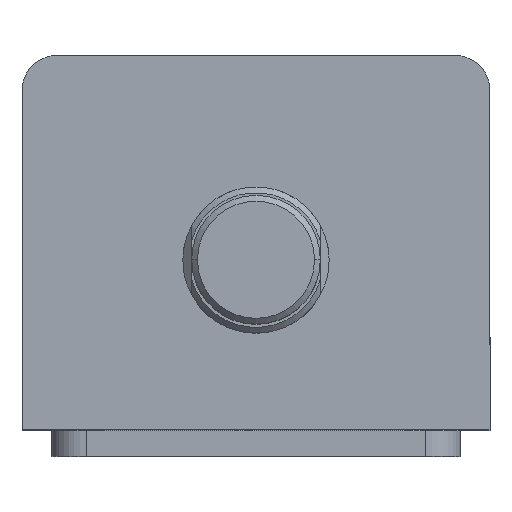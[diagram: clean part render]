
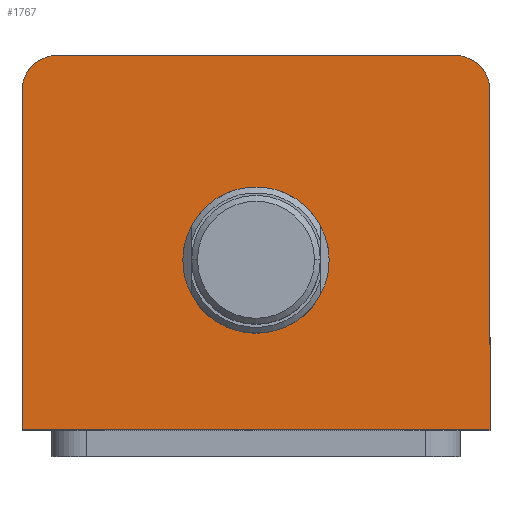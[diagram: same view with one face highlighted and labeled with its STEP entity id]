
A CAD part, top view. The second image highlights one B-rep face of the part: STEP entity #1767.
In plain terms, the highlighted planar face has unit normal (0, 0, 1).
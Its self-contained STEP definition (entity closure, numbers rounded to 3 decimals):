
#34 = CARTESIAN_POINT ( 'NONE',  ( 12.5, -3., 95. ) ) ;
#48 = CARTESIAN_POINT ( 'NONE',  ( -34., 32., 95. ) ) ;
#51 = CARTESIAN_POINT ( 'NONE',  ( 34., 32., 95. ) ) ;
#75 = CARTESIAN_POINT ( 'NONE',  ( -40., -32., 95. ) ) ;
#78 = CARTESIAN_POINT ( 'NONE',  ( 40., -32., 95. ) ) ;
#98 = CARTESIAN_POINT ( 'NONE',  ( -40., 26., 95. ) ) ;
#102 = CARTESIAN_POINT ( 'NONE',  ( 40., 26., 95. ) ) ;
#349 = DIRECTION ( 'NONE',  ( 0., 1., 0. ) ) ;
#358 = CARTESIAN_POINT ( 'NONE',  ( 40., 32., 95. ) ) ;
#441 = DIRECTION ( 'NONE',  ( 1., 0., 0. ) ) ;
#442 = DIRECTION ( 'NONE',  ( 0., 0., 1. ) ) ;
#443 = CARTESIAN_POINT ( 'NONE',  ( 0., -3., 95. ) ) ;
#456 = DIRECTION ( 'NONE',  ( -1., 0., 0. ) ) ;
#458 = CARTESIAN_POINT ( 'NONE',  ( -40., 32., 95. ) ) ;
#483 = DIRECTION ( 'NONE',  ( 0., -1., 0. ) ) ;
#485 = CARTESIAN_POINT ( 'NONE',  ( -40., 32., 95. ) ) ;
#495 = DIRECTION ( 'NONE',  ( 1., 0., 0. ) ) ;
#496 = DIRECTION ( 'NONE',  ( 0., 0., 1. ) ) ;
#497 = CARTESIAN_POINT ( 'NONE',  ( -34., 26., 95. ) ) ;
#537 = DIRECTION ( 'NONE',  ( 1., 0., 0. ) ) ;
#538 = DIRECTION ( 'NONE',  ( 0., 0., 1. ) ) ;
#539 = CARTESIAN_POINT ( 'NONE',  ( 34., 26., 95. ) ) ;
#592 = ORIENTED_EDGE ( 'NONE', *, *, #1402, .T. ) ;
#593 = ORIENTED_EDGE ( 'NONE', *, *, #1394, .T. ) ;
#595 = ORIENTED_EDGE ( 'NONE', *, *, #1357, .T. ) ;
#597 = ORIENTED_EDGE ( 'NONE', *, *, #1415, .T. ) ;
#598 = ORIENTED_EDGE ( 'NONE', *, *, #1411, .T. ) ;
#599 = ORIENTED_EDGE ( 'NONE', *, *, #1374, .T. ) ;
#600 = ORIENTED_EDGE ( 'NONE', *, *, #1328, .F. ) ;
#601 = ORIENTED_EDGE ( 'NONE', *, *, #1428, .F. ) ;
#1124 = EDGE_LOOP ( 'NONE', ( #601, #600 ) ) ;
#1135 = EDGE_LOOP ( 'NONE', ( #599, #598, #597, #595, #593, #592 ) ) ;
#1328 = EDGE_CURVE ( 'NONE', #2495, #2451, #2694, .T. ) ;
#1357 = EDGE_CURVE ( 'NONE', #2410, #2407, #2733, .T. ) ;
#1374 = EDGE_CURVE ( 'NONE', #2434, #2437, #2766, .T. ) ;
#1394 = EDGE_CURVE ( 'NONE', #2407, #2386, #2805, .T. ) ;
#1402 = EDGE_CURVE ( 'NONE', #2386, #2434, #2812, .T. ) ;
#1411 = EDGE_CURVE ( 'NONE', #2437, #2390, #2825, .T. ) ;
#1415 = EDGE_CURVE ( 'NONE', #2390, #2410, #2831, .T. ) ;
#1428 = EDGE_CURVE ( 'NONE', #2451, #2495, #2857, .T. ) ;
#1767 = ADVANCED_FACE ( 'NONE', ( #2015, #2023 ), #3312, .T. ) ;
#1853 = AXIS2_PLACEMENT_3D ( 'NONE', #3665, #3663, #3662 ) ;
#2015 = FACE_BOUND ( 'NONE', #1124, .T. ) ;
#2023 = FACE_OUTER_BOUND ( 'NONE', #1135, .T. ) ;
#2386 = VERTEX_POINT ( 'NONE', #102 ) ;
#2390 = VERTEX_POINT ( 'NONE', #98 ) ;
#2407 = VERTEX_POINT ( 'NONE', #78 ) ;
#2410 = VERTEX_POINT ( 'NONE', #75 ) ;
#2434 = VERTEX_POINT ( 'NONE', #51 ) ;
#2437 = VERTEX_POINT ( 'NONE', #48 ) ;
#2451 = VERTEX_POINT ( 'NONE', #34 ) ;
#2495 = VERTEX_POINT ( 'NONE', #3141 ) ;
#2694 = CIRCLE ( 'NONE', #1853, 12.5 ) ;
#2733 = LINE ( 'NONE', #3569, #2740 ) ;
#2740 = VECTOR ( 'NONE', #3560, 1000. ) ;
#2766 = LINE ( 'NONE', #458, #2769 ) ;
#2769 = VECTOR ( 'NONE', #456, 1000. ) ;
#2805 = LINE ( 'NONE', #358, #2808 ) ;
#2808 = VECTOR ( 'NONE', #349, 1000. ) ;
#2812 = CIRCLE ( 'NONE', #2940, 6. ) ;
#2825 = CIRCLE ( 'NONE', #2930, 6. ) ;
#2831 = LINE ( 'NONE', #485, #2834 ) ;
#2834 = VECTOR ( 'NONE', #483, 1000. ) ;
#2857 = CIRCLE ( 'NONE', #2927, 12.5 ) ;
#2927 = AXIS2_PLACEMENT_3D ( 'NONE', #443, #442, #441 ) ;
#2930 = AXIS2_PLACEMENT_3D ( 'NONE', #497, #496, #495 ) ;
#2940 = AXIS2_PLACEMENT_3D ( 'NONE', #539, #538, #537 ) ;
#3141 = CARTESIAN_POINT ( 'NONE',  ( -12.5, -3., 95. ) ) ;
#3309 = DIRECTION ( 'NONE',  ( 1., 0., 0. ) ) ;
#3310 = DIRECTION ( 'NONE',  ( 0., 0., 1. ) ) ;
#3312 = PLANE ( 'NONE',  #3793 ) ;
#3315 = CARTESIAN_POINT ( 'NONE',  ( 0., 0., 95. ) ) ;
#3560 = DIRECTION ( 'NONE',  ( 1., 0., 0. ) ) ;
#3569 = CARTESIAN_POINT ( 'NONE',  ( -40., -32., 95. ) ) ;
#3662 = DIRECTION ( 'NONE',  ( 1., 0., 0. ) ) ;
#3663 = DIRECTION ( 'NONE',  ( 0., 0., 1. ) ) ;
#3665 = CARTESIAN_POINT ( 'NONE',  ( 0., -3., 95. ) ) ;
#3793 = AXIS2_PLACEMENT_3D ( 'NONE', #3315, #3310, #3309 ) ;
